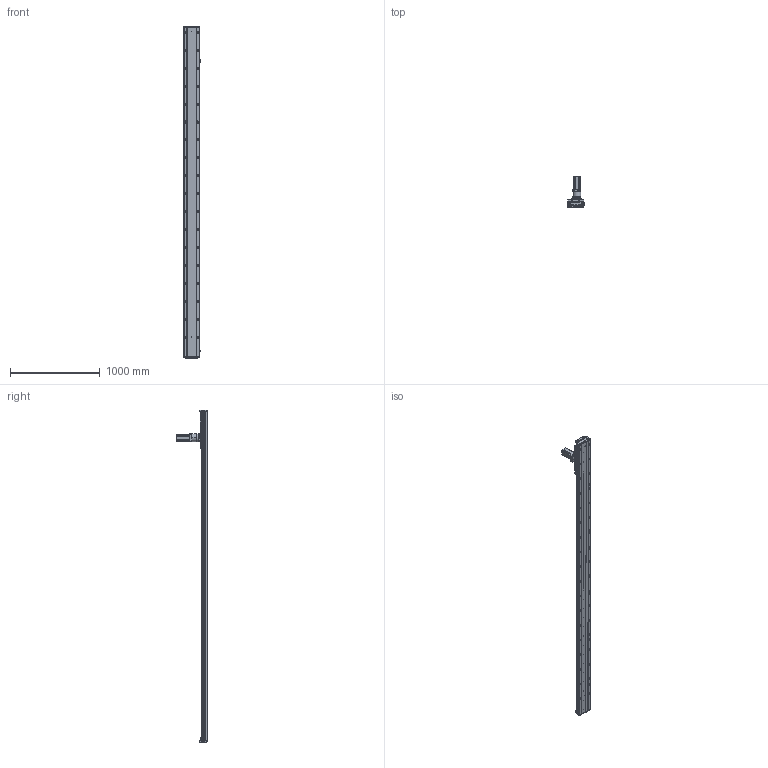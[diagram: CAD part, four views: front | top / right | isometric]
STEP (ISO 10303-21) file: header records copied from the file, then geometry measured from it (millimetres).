
FILE_DESCRIPTION (( 'STEP AP203' ), '1' );
FILE_NAME ('RY170-C-1000-UK.SLDASM_3200.step', '2021-03-03T00:48:33', ( '盈信电脑' ), ( '东莞市道滘镇水果街19号' ), 'SwSTEP 2.0', 'SolidWorks 2012', '' );
FILE_SCHEMA (( 'CONFIG_CONTROL_DESIGN' ));
Length unit declared in the file: millimetre
Products named in the file (13): TF080等撰; RY170-C-1000-UK.SLDASM_3200; 左旋斜齿齿轮_M2_22齿_内孔20; RY170-喘沭賑輸; RY170-喘謫萇儂覃誹啣; RY170-喘沭滅袉蝶輸; 怢湛750W萇儂ㄗ80遺ㄘ; 覜茼ん672; RY170綴裔啣ㄗ蜊秶ㄘ; RY170-1000-喘沭耀郪絳寢EGH20CA_3200; RY170外置感应片(200共用）; RY170-1000齿条模组型材底座_3200; 絳寢賑輸EGH20CA
Assembly tree (22 placements, depth 2):
  RY170-C-1000-UK.SLDASM_3200
    RY170-1000齿条模组型材底座_3200
    絳寢賑輸EGH20CA  x6
    RY170-1000-喘沭耀郪絳寢EGH20CA_3200  x2
    RY170綴裔啣ㄗ蜊秶ㄘ  x2
    覜茼ん672  x3
    RY170外置感应片(200共用）
    RY170-喘謫萇儂覃誹啣
    怢湛750W萇儂ㄗ80遺ㄘ
    RY170-喘沭滅袉蝶輸  x2
    TF080等撰
    左旋斜齿齿轮_M2_22齿_内孔20
    RY170-喘沭賑輸
Bounding box: 188.7 x 343.5 x 3700 mm (x, y, z)
Volume: 18312639.4 mm3; surface area: 4747431.6 mm2
Topology: 24 solids, 24 shells, 4989 faces, 14180 edges, 9026 vertices
Faces by surface type: plane 2311, cylinder 2196, cone 428, bspline 50, torus 4
Entity records: 116090 total; most frequent: CARTESIAN_POINT 28404, ORIENTED_EDGE 18454, DIRECTION 17738, EDGE_CURVE 9227, AXIS2_PLACEMENT_3D 6627, VERTEX_POINT 5996, LINE 4484, VECTOR 4484
